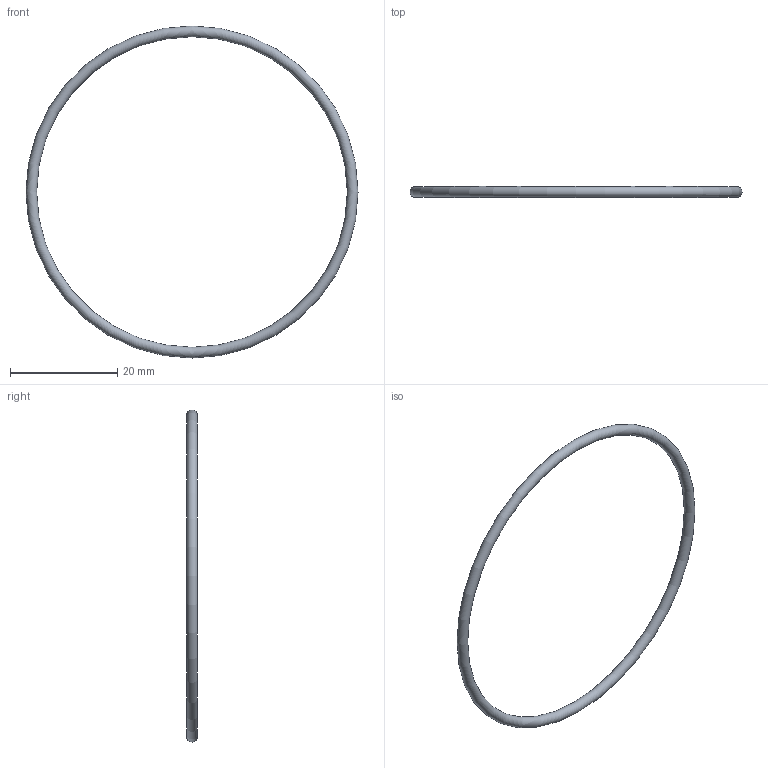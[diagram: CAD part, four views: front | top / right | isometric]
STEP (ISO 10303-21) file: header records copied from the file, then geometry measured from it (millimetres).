
FILE_DESCRIPTION( ( 'STEP AP203' ), '1' );
FILE_NAME( 'C:/Temp/Ganter_Step_05_03_2020/data/3_5/or638/O-Ring OR638-58.00-2.00-70.stp', '2020-03-12T13:44:24', ( 'License CC BY-ND 4.0' ), ( 'CADENAS' ), ' ', 'PARTsolutions', ' ' );
FILE_SCHEMA( ( 'CONFIG_CONTROL_DESIGN' ) );
Length unit declared in the file: millimetre
Products named in the file (1): _O-Ring OR638-58.00-2.00-70
Bounding box: 62 x 2 x 62 mm (x, y, z)
Volume: 592.2 mm3; surface area: 1184.4 mm2
Topology: 1 solids, 1 shells, 1 faces, 2 edges, 1 vertices
Faces by surface type: torus 1
Entity records: 62 total; most frequent: CC_DESIGN_PERSON_AND_ORGANIZATION_ASSIGNMENT 5, PERSON_AND_ORGANIZATION_ROLE 4, DIRECTION 4, CARTESIAN_POINT 3, DATE_TIME_ROLE 2, CC_DESIGN_DATE_AND_TIME_ASSIGNMENT 2, AXIS2_PLACEMENT_3D 2, DIMENSIONAL_EXPONENTS 2
